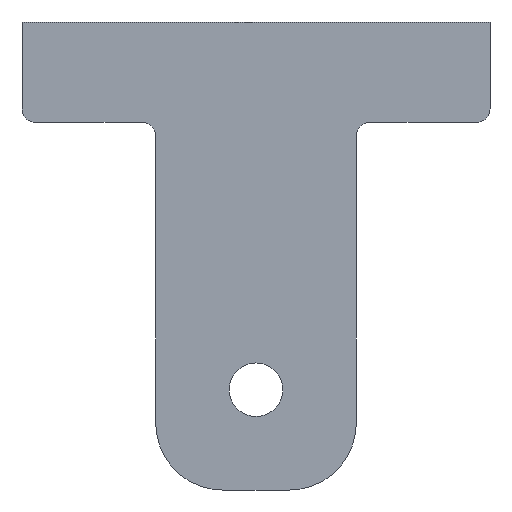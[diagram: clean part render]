
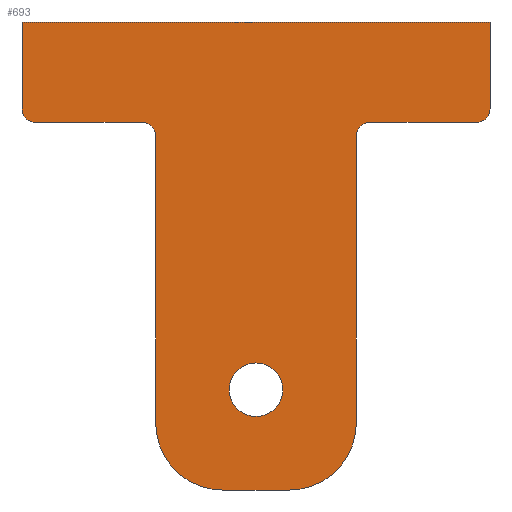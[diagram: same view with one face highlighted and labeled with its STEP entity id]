
A CAD part, front view. The second image highlights one B-rep face of the part: STEP entity #693.
In plain terms, the highlighted planar face has unit normal (0, -1, 0).
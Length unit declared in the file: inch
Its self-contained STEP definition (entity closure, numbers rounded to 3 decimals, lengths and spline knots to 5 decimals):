
#9 = EDGE_CURVE ( 'NONE', #490, #459, #575, .T. ) ;
#10 = EDGE_CURVE ( 'NONE', #489, #510, #540, .T. ) ;
#17 = EDGE_CURVE ( 'NONE', #467, #464, #570, .T. ) ;
#19 = EDGE_CURVE ( 'NONE', #510, #488, #520, .T. ) ;
#22 = EDGE_CURVE ( 'NONE', #464, #475, #535, .T. ) ;
#23 = EDGE_CURVE ( 'NONE', #478, #490, #596, .T. ) ;
#24 = EDGE_CURVE ( 'NONE', #488, #478, #616, .T. ) ;
#26 = EDGE_CURVE ( 'NONE', #470, #495, #605, .T. ) ;
#27 = EDGE_CURVE ( 'NONE', #453, #466, #627, .T. ) ;
#32 = AXIS2_PLACEMENT_3D ( 'NONE', #131, #164, #132 ) ;
#36 = EDGE_CURVE ( 'NONE', #459, #467, #606, .T. ) ;
#42 = AXIS2_PLACEMENT_3D ( 'NONE', #201, #195, #197 ) ;
#50 = AXIS2_PLACEMENT_3D ( 'NONE', #301, #302, #303 ) ;
#52 = AXIS2_PLACEMENT_3D ( 'NONE', #178, #206, #171 ) ;
#55 = AXIS2_PLACEMENT_3D ( 'NONE', #127, #129, #130 ) ;
#57 = EDGE_CURVE ( 'NONE', #475, #509, #609, .T. ) ;
#62 = EDGE_CURVE ( 'NONE', #509, #486, #579, .T. ) ;
#70 = AXIS2_PLACEMENT_3D ( 'NONE', #254, #217, #210 ) ;
#72 = EDGE_CURVE ( 'NONE', #466, #453, #621, .T. ) ;
#74 = AXIS2_PLACEMENT_3D ( 'NONE', #184, #209, #176 ) ;
#76 = AXIS2_PLACEMENT_3D ( 'NONE', #247, #220, #248 ) ;
#79 = AXIS2_PLACEMENT_3D ( 'NONE', #152, #156, #158 ) ;
#80 = EDGE_CURVE ( 'NONE', #495, #489, #588, .T. ) ;
#82 = EDGE_CURVE ( 'NONE', #487, #470, #595, .T. ) ;
#88 = EDGE_CURVE ( 'NONE', #486, #487, #628, .T. ) ;
#127 = CARTESIAN_POINT ( 'NONE',  ( 0.9, 0., -0.85 ) ) ;
#128 = CARTESIAN_POINT ( 'NONE',  ( 2., 0., -3.5 ) ) ;
#129 = DIRECTION ( 'NONE',  ( 0., -1., 0. ) ) ;
#130 = DIRECTION ( 'NONE',  ( 0., 0., -1. ) ) ;
#131 = CARTESIAN_POINT ( 'NONE',  ( 2., 0., -3. ) ) ;
#132 = DIRECTION ( 'NONE',  ( 0., 0., 1. ) ) ;
#134 = CARTESIAN_POINT ( 'NONE',  ( 0., 0., -0.65 ) ) ;
#140 = DIRECTION ( 'NONE',  ( 0., 0., 1. ) ) ;
#141 = DIRECTION ( 'NONE',  ( 0., 0., 1. ) ) ;
#143 = CARTESIAN_POINT ( 'NONE',  ( 1., 0., -3. ) ) ;
#150 = DIRECTION ( 'NONE',  ( -1., 0., 0. ) ) ;
#152 = CARTESIAN_POINT ( 'NONE',  ( 0.1, 0., -0.65 ) ) ;
#156 = DIRECTION ( 'NONE',  ( 0., 1., 0. ) ) ;
#158 = DIRECTION ( 'NONE',  ( 0., 0., 1. ) ) ;
#164 = DIRECTION ( 'NONE',  ( 0., 1., 0. ) ) ;
#171 = DIRECTION ( 'NONE',  ( 0., 0., -1. ) ) ;
#176 = DIRECTION ( 'NONE',  ( 0., 0., 1. ) ) ;
#178 = CARTESIAN_POINT ( 'NONE',  ( 2.6, 0., -0.85 ) ) ;
#183 = CARTESIAN_POINT ( 'NONE',  ( 3.5, 0., 0. ) ) ;
#184 = CARTESIAN_POINT ( 'NONE',  ( 1.75, 0., -2.75 ) ) ;
#191 = CARTESIAN_POINT ( 'NONE',  ( 0.9, 0., -0.75 ) ) ;
#195 = DIRECTION ( 'NONE',  ( 0., 1., 0. ) ) ;
#197 = DIRECTION ( 'NONE',  ( 0., 0., 1. ) ) ;
#201 = CARTESIAN_POINT ( 'NONE',  ( 1.5, 0., -3. ) ) ;
#202 = DIRECTION ( 'NONE',  ( -1., 0., 0. ) ) ;
#205 = CARTESIAN_POINT ( 'NONE',  ( 0., 0., 0. ) ) ;
#206 = DIRECTION ( 'NONE',  ( 0., -1., 0. ) ) ;
#208 = DIRECTION ( 'NONE',  ( 1., 0., 0. ) ) ;
#209 = DIRECTION ( 'NONE',  ( 0., 1., 0. ) ) ;
#210 = DIRECTION ( 'NONE',  ( 0., 0., 1. ) ) ;
#211 = CARTESIAN_POINT ( 'NONE',  ( 0., 0., -0.65 ) ) ;
#216 = DIRECTION ( 'NONE',  ( 0., 0., -1. ) ) ;
#217 = DIRECTION ( 'NONE',  ( 0., 1., 0. ) ) ;
#220 = DIRECTION ( 'NONE',  ( 0., 1., 0. ) ) ;
#224 = CARTESIAN_POINT ( 'NONE',  ( 0.1, 0., -0.75 ) ) ;
#225 = CARTESIAN_POINT ( 'NONE',  ( 3.4, 0., -0.75 ) ) ;
#226 = CARTESIAN_POINT ( 'NONE',  ( 1.75, 0., -2.55 ) ) ;
#227 = DIRECTION ( 'NONE',  ( 0., 0., -1. ) ) ;
#229 = CARTESIAN_POINT ( 'NONE',  ( 1., 0., -3. ) ) ;
#237 = CARTESIAN_POINT ( 'NONE',  ( 0., 0., 0. ) ) ;
#239 = CARTESIAN_POINT ( 'NONE',  ( 2.5, 0., -3. ) ) ;
#243 = CARTESIAN_POINT ( 'NONE',  ( 3.4, 0., -0.75 ) ) ;
#244 = DIRECTION ( 'NONE',  ( -1., 0., 0. ) ) ;
#245 = CARTESIAN_POINT ( 'NONE',  ( 1.75, 0., -2.95 ) ) ;
#246 = CARTESIAN_POINT ( 'NONE',  ( 2.5, 0., -0.85 ) ) ;
#247 = CARTESIAN_POINT ( 'NONE',  ( 3.4, 0., -0.65 ) ) ;
#248 = DIRECTION ( 'NONE',  ( 0., 0., 1. ) ) ;
#249 = CARTESIAN_POINT ( 'NONE',  ( 0.9, 0., -0.75 ) ) ;
#250 = CARTESIAN_POINT ( 'NONE',  ( 2.6, 0., -0.75 ) ) ;
#254 = CARTESIAN_POINT ( 'NONE',  ( 1.75, 0., -2.75 ) ) ;
#257 = CARTESIAN_POINT ( 'NONE',  ( 3.5, 0., 0. ) ) ;
#260 = CARTESIAN_POINT ( 'NONE',  ( 3.5, 0., -0.65 ) ) ;
#261 = CARTESIAN_POINT ( 'NONE',  ( 1., 0., -0.85 ) ) ;
#274 = CARTESIAN_POINT ( 'NONE',  ( 2., 0., -3.5 ) ) ;
#293 = CARTESIAN_POINT ( 'NONE',  ( 2.5, 0., -0.85 ) ) ;
#301 = CARTESIAN_POINT ( 'NONE',  ( 3.4, 0., -0.65 ) ) ;
#302 = DIRECTION ( 'NONE',  ( 0., 1., 0. ) ) ;
#303 = DIRECTION ( 'NONE',  ( 0., 0., 1. ) ) ;
#304 = CARTESIAN_POINT ( 'NONE',  ( 1.5, 0., -3.5 ) ) ;
#309 = PLANE ( 'NONE',  #50 ) ;
#393 = ORIENTED_EDGE ( 'NONE', *, *, #62, .F. ) ;
#394 = EDGE_LOOP ( 'NONE', ( #415, #421 ) ) ;
#399 = ORIENTED_EDGE ( 'NONE', *, *, #80, .F. ) ;
#400 = ORIENTED_EDGE ( 'NONE', *, *, #88, .F. ) ;
#411 = ORIENTED_EDGE ( 'NONE', *, *, #57, .F. ) ;
#414 = ORIENTED_EDGE ( 'NONE', *, *, #22, .F. ) ;
#415 = ORIENTED_EDGE ( 'NONE', *, *, #27, .T. ) ;
#421 = ORIENTED_EDGE ( 'NONE', *, *, #72, .T. ) ;
#423 = ORIENTED_EDGE ( 'NONE', *, *, #19, .F. ) ;
#424 = ORIENTED_EDGE ( 'NONE', *, *, #9, .F. ) ;
#425 = ORIENTED_EDGE ( 'NONE', *, *, #82, .F. ) ;
#436 = ORIENTED_EDGE ( 'NONE', *, *, #23, .F. ) ;
#440 = ORIENTED_EDGE ( 'NONE', *, *, #26, .F. ) ;
#441 = ORIENTED_EDGE ( 'NONE', *, *, #24, .F. ) ;
#446 = ORIENTED_EDGE ( 'NONE', *, *, #10, .F. ) ;
#447 = ORIENTED_EDGE ( 'NONE', *, *, #36, .F. ) ;
#449 = ORIENTED_EDGE ( 'NONE', *, *, #17, .F. ) ;
#452 = EDGE_LOOP ( 'NONE', ( #414, #449, #447, #424, #436, #441, #423, #446, #399, #440, #425, #400, #393, #411 ) ) ;
#453 = VERTEX_POINT ( 'NONE', #245 ) ;
#459 = VERTEX_POINT ( 'NONE', #249 ) ;
#464 = VERTEX_POINT ( 'NONE', #211 ) ;
#466 = VERTEX_POINT ( 'NONE', #226 ) ;
#467 = VERTEX_POINT ( 'NONE', #224 ) ;
#470 = VERTEX_POINT ( 'NONE', #250 ) ;
#475 = VERTEX_POINT ( 'NONE', #237 ) ;
#478 = VERTEX_POINT ( 'NONE', #229 ) ;
#486 = VERTEX_POINT ( 'NONE', #260 ) ;
#487 = VERTEX_POINT ( 'NONE', #225 ) ;
#488 = VERTEX_POINT ( 'NONE', #304 ) ;
#489 = VERTEX_POINT ( 'NONE', #239 ) ;
#490 = VERTEX_POINT ( 'NONE', #261 ) ;
#495 = VERTEX_POINT ( 'NONE', #293 ) ;
#509 = VERTEX_POINT ( 'NONE', #257 ) ;
#510 = VERTEX_POINT ( 'NONE', #274 ) ;
#520 = LINE ( 'NONE', #128, #545 ) ;
#535 = LINE ( 'NONE', #134, #536 ) ;
#536 = VECTOR ( 'NONE', #140, 39.37008 ) ;
#540 = CIRCLE ( 'NONE', #32, 0.5 ) ;
#545 = VECTOR ( 'NONE', #150, 39.37008 ) ;
#570 = CIRCLE ( 'NONE', #79, 0.1 ) ;
#575 = CIRCLE ( 'NONE', #55, 0.1 ) ;
#579 = LINE ( 'NONE', #183, #622 ) ;
#582 = VECTOR ( 'NONE', #202, 39.37008 ) ;
#588 = LINE ( 'NONE', #246, #600 ) ;
#595 = LINE ( 'NONE', #243, #626 ) ;
#596 = LINE ( 'NONE', #143, #633 ) ;
#600 = VECTOR ( 'NONE', #216, 39.37008 ) ;
#605 = CIRCLE ( 'NONE', #52, 0.1 ) ;
#606 = LINE ( 'NONE', #191, #582 ) ;
#609 = LINE ( 'NONE', #205, #610 ) ;
#610 = VECTOR ( 'NONE', #208, 39.37008 ) ;
#616 = CIRCLE ( 'NONE', #42, 0.5 ) ;
#621 = CIRCLE ( 'NONE', #70, 0.2 ) ;
#622 = VECTOR ( 'NONE', #227, 39.37008 ) ;
#626 = VECTOR ( 'NONE', #244, 39.37008 ) ;
#627 = CIRCLE ( 'NONE', #74, 0.2 ) ;
#628 = CIRCLE ( 'NONE', #76, 0.1 ) ;
#633 = VECTOR ( 'NONE', #141, 39.37008 ) ;
#649 = FACE_OUTER_BOUND ( 'NONE', #452, .T. ) ;
#661 = FACE_BOUND ( 'NONE', #394, .T. ) ;
#693 = ADVANCED_FACE ( 'NONE', ( #649, #661 ), #309, .F. ) ;
